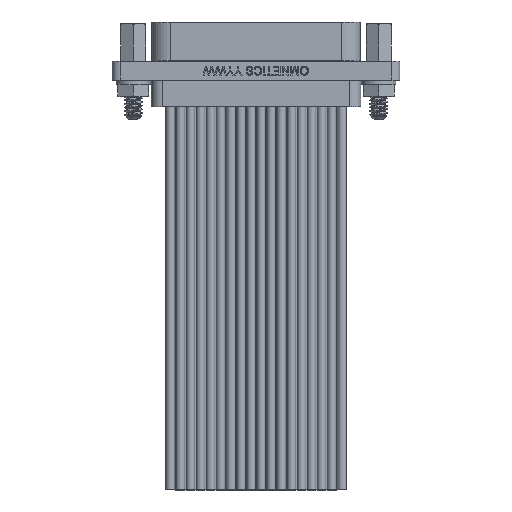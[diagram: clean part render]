
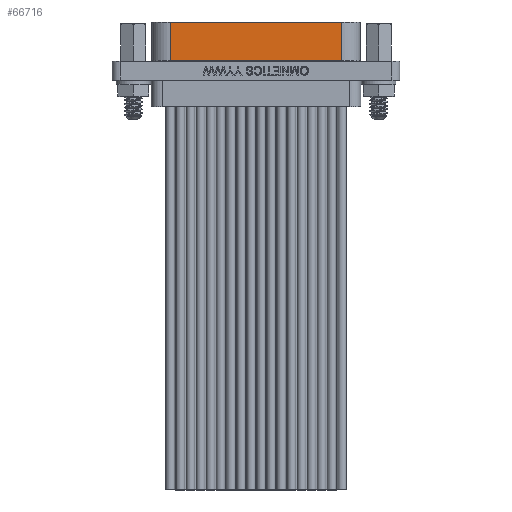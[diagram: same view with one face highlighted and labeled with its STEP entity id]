
A CAD part, front view. The second image highlights one B-rep face of the part: STEP entity #66716.
In plain terms, the highlighted planar face has unit normal (0, -1, 0).
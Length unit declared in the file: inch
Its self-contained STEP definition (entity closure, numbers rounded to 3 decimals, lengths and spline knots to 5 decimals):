
#1817 = VERTEX_POINT ( 'NONE', #85925 ) ;
#3003 = CARTESIAN_POINT ( 'NONE',  ( 0.425, -0.11745, 0.045 ) ) ;
#9524 = VECTOR ( 'NONE', #54909, 39.37008 ) ;
#11487 = LINE ( 'NONE', #49972, #58282 ) ;
#16187 = DIRECTION ( 'NONE',  ( -1., 0., 0. ) ) ;
#20367 = PLANE ( 'NONE',  #55478 ) ;
#20793 = CARTESIAN_POINT ( 'NONE',  ( -0.425, -0.11745, 0.235 ) ) ;
#24884 = VERTEX_POINT ( 'NONE', #97270 ) ;
#32254 = VECTOR ( 'NONE', #71329, 39.37008 ) ;
#34906 = DIRECTION ( 'NONE',  ( 1., 0., 0. ) ) ;
#40529 = VERTEX_POINT ( 'NONE', #50474 ) ;
#41256 = ORIENTED_EDGE ( 'NONE', *, *, #95514, .F. ) ;
#44290 = EDGE_CURVE ( 'NONE', #40529, #24884, #60210, .T. ) ;
#44854 = VECTOR ( 'NONE', #67522, 39.37008 ) ;
#46305 = CARTESIAN_POINT ( 'NONE',  ( -0.425, -0.11745, 0.235 ) ) ;
#47603 = VERTEX_POINT ( 'NONE', #20793 ) ;
#47871 = ORIENTED_EDGE ( 'NONE', *, *, #77756, .T. ) ;
#49972 = CARTESIAN_POINT ( 'NONE',  ( -0.6725, -0.11745, 0.235 ) ) ;
#50474 = CARTESIAN_POINT ( 'NONE',  ( -0.425, -0.11745, 0.045 ) ) ;
#54909 = DIRECTION ( 'NONE',  ( 0., 0., -1. ) ) ;
#55478 = AXIS2_PLACEMENT_3D ( 'NONE', #100113, #102705, #16187 ) ;
#57908 = ORIENTED_EDGE ( 'NONE', *, *, #98670, .F. ) ;
#58282 = VECTOR ( 'NONE', #34906, 39.37008 ) ;
#60210 = LINE ( 'NONE', #3003, #44854 ) ;
#60426 = FACE_OUTER_BOUND ( 'NONE', #93343, .T. ) ;
#62695 = CARTESIAN_POINT ( 'NONE',  ( 0.425, -0.11745, 0.235 ) ) ;
#66716 = ADVANCED_FACE ( 'NONE', ( #60426 ), #20367, .F. ) ;
#67522 = DIRECTION ( 'NONE',  ( 1., 0., 0. ) ) ;
#71329 = DIRECTION ( 'NONE',  ( 0., 0., -1. ) ) ;
#76863 = LINE ( 'NONE', #62695, #9524 ) ;
#77756 = EDGE_CURVE ( 'NONE', #47603, #40529, #88044, .T. ) ;
#85743 = ORIENTED_EDGE ( 'NONE', *, *, #44290, .T. ) ;
#85925 = CARTESIAN_POINT ( 'NONE',  ( 0.425, -0.11745, 0.235 ) ) ;
#88044 = LINE ( 'NONE', #46305, #32254 ) ;
#93343 = EDGE_LOOP ( 'NONE', ( #47871, #85743, #41256, #57908 ) ) ;
#95514 = EDGE_CURVE ( 'NONE', #1817, #24884, #76863, .T. ) ;
#97270 = CARTESIAN_POINT ( 'NONE',  ( 0.425, -0.11745, 0.045 ) ) ;
#98670 = EDGE_CURVE ( 'NONE', #47603, #1817, #11487, .T. ) ;
#100113 = CARTESIAN_POINT ( 'NONE',  ( -0.6725, -0.11745, 0.235 ) ) ;
#102705 = DIRECTION ( 'NONE',  ( 0., 1., 0. ) ) ;
